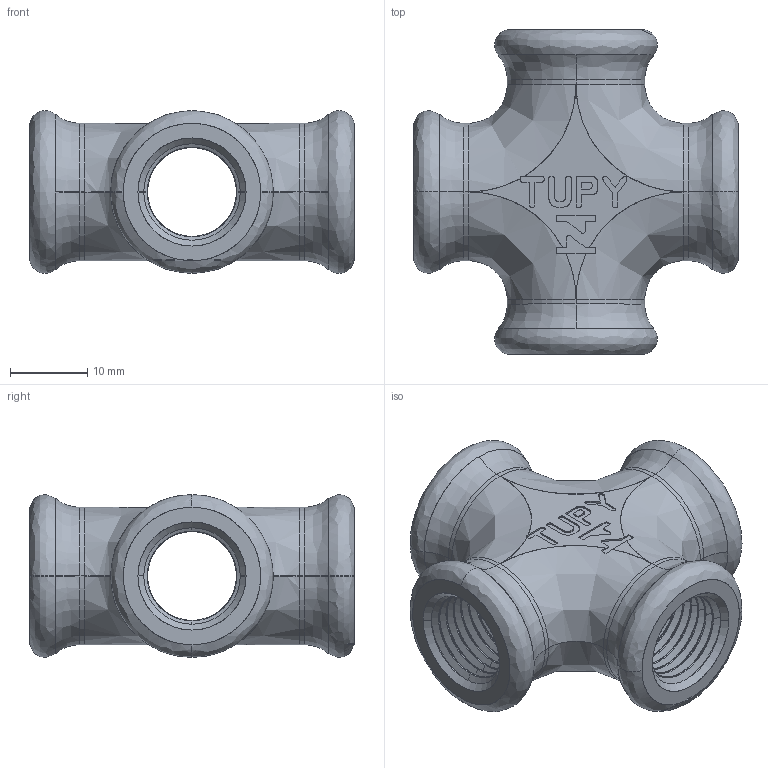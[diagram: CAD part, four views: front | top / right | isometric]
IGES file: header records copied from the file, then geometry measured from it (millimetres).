
Start section: SolidWorks IGES file using analytic representation for surfaces
Global section: file name: C:\Users\Joel Rosa\Desktop\Tubulação\12-18-OK\12-18-002.IGS; native system: SolidWorks 2011; preprocessor: SolidWorks 2011; author: Joel Rosa; date: 121207.003053; units: millimetre
Bounding box: 42 x 42 x 21.1 mm (x, y, z)
Surface area: 8113.3 mm2 (no closed solid volume)
Topology: 0 solids, 0 shells, 462 faces, 3108 edges, 3108 vertices
Faces by surface type: bspline 308, revolution 154
